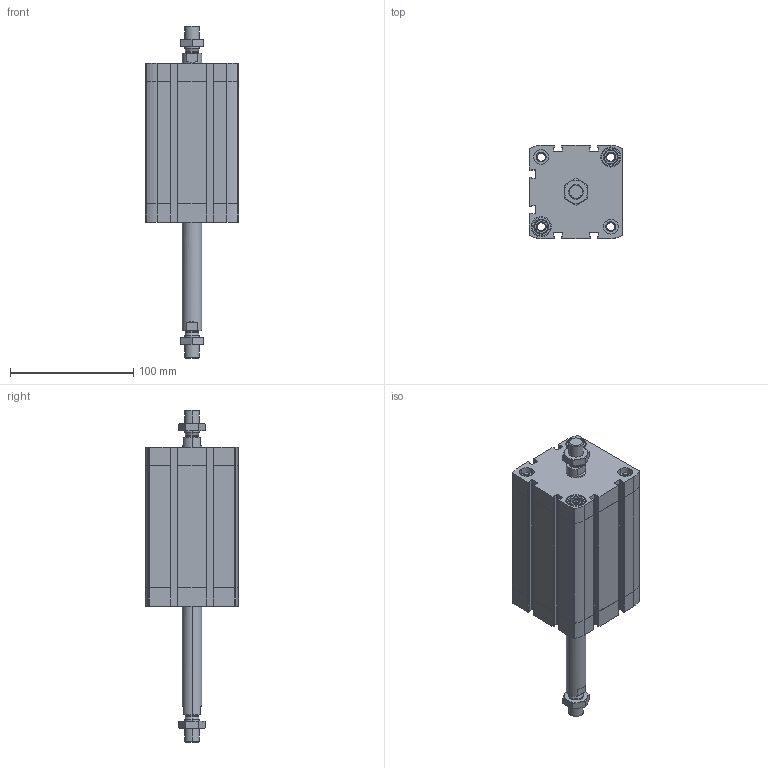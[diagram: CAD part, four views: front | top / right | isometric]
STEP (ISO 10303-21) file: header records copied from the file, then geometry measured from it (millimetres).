
FILE_DESCRIPTION (( 'STEP AP203' ), '1' );
FILE_NAME ('CCN63-80-P.STEP', '2020-06-22T19:03:48', ( '' ), ( '' ), 'SwSTEP 2.0', 'SolidWorks 2019', '' );
FILE_SCHEMA (( 'CONFIG_CONTROL_DESIGN' ));
Length unit declared in the file: millimetre
Products named in the file (1): CCN63-80-P
Bounding box: 75.5 x 75.5 x 269.4 mm (x, y, z)
Volume: 468596.6 mm3; surface area: 122621.4 mm2
Topology: 4 solids, 4 shells, 528 faces, 1396 edges, 908 vertices
Faces by surface type: plane 240, cylinder 220, cone 60, torus 8
Entity records: 17259 total; most frequent: CARTESIAN_POINT 3829, DIRECTION 2850, ORIENTED_EDGE 2792, EDGE_CURVE 1396, AXIS2_PLACEMENT_3D 1049, VERTEX_POINT 908, LINE 752, VECTOR 752
